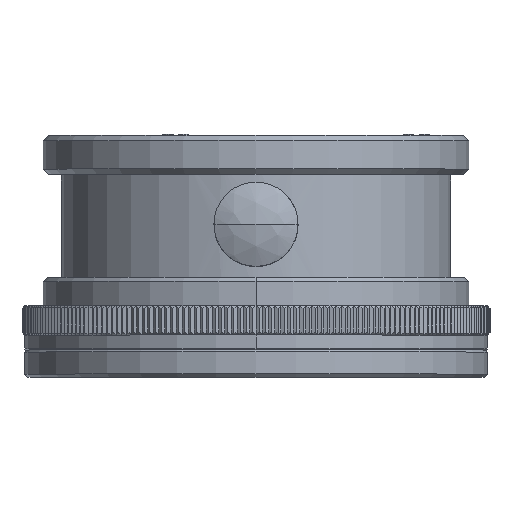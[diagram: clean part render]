
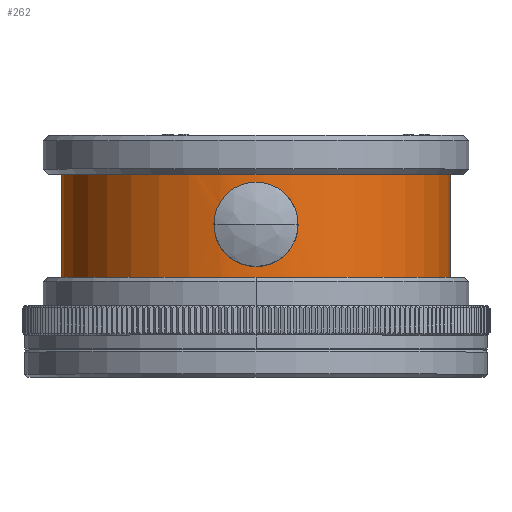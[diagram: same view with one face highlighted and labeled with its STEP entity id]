
A CAD part, top view. The second image highlights one B-rep face of the part: STEP entity #262.
In plain terms, the highlighted cylindrical face has radius 18.5 mm (diameter 37 mm), a partial arc.
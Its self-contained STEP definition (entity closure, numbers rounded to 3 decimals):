
#262=ADVANCED_FACE('',(#1477,#1478),#1479,.T.);
#1477=FACE_BOUND('',#3759,.T.);
#1478=FACE_OUTER_BOUND('',#3760,.T.);
#1479=CYLINDRICAL_SURFACE('',#3761,18.5);
#3759=EDGE_LOOP('',(#7621,#7622));
#3760=EDGE_LOOP('',(#7623,#7624,#7625,#7626,#7627));
#3761=AXIS2_PLACEMENT_3D('',#7628,#7629,#7630);
#7621=ORIENTED_EDGE('',*,*,#16089,.F.);
#7622=ORIENTED_EDGE('',*,*,#16090,.F.);
#7623=ORIENTED_EDGE('',*,*,#16091,.F.);
#7624=ORIENTED_EDGE('',*,*,#16092,.T.);
#7625=ORIENTED_EDGE('',*,*,#16093,.T.);
#7626=ORIENTED_EDGE('',*,*,#16094,.F.);
#7627=ORIENTED_EDGE('',*,*,#16095,.F.);
#7628=CARTESIAN_POINT('',(0.0,-15.5,0.));
#7629=DIRECTION('',(-0.0,1.0,0.0));
#7630=DIRECTION('',(1.0,0.0,0.0));
#16089=EDGE_CURVE('',#20312,#20313,#20314,.T.);
#16090=EDGE_CURVE('',#20313,#20312,#20315,.T.);
#16091=EDGE_CURVE('',#20316,#20307,#20317,.T.);
#16092=EDGE_CURVE('',#20316,#20318,#20319,.T.);
#16093=EDGE_CURVE('',#20318,#20320,#20321,.T.);
#16094=EDGE_CURVE('',#20304,#20320,#20322,.T.);
#16095=EDGE_CURVE('',#20307,#20304,#20323,.T.);
#20304=VERTEX_POINT('',#29557);
#20307=VERTEX_POINT('',#29561);
#20312=VERTEX_POINT('',#29567);
#20313=VERTEX_POINT('',#29568);
#20314=B_SPLINE_CURVE_WITH_KNOTS('',3,(#29569,#29570,#29571,#29572,#29573,#29574,#29575,#29576,#29577,#29578,#29579,#29580,#29581,#29582,#29583,#29584,#29585,#29586,#29587,#29588,#29589,#29590,#29591,#29592,#29593,#29594,#29595,#29596,#29597,#29598,#29599,#29600,#29601,#29602),.UNSPECIFIED.,.F.,.F.,(4,2,2,2,2,2,2,2,2,2,2,2,2,2,2,2,4),(0.0,0.756,1.512,2.268,3.024,3.78,4.536,5.292,6.048,6.804,7.559,8.315,9.071,9.827,10.583,11.339,12.095),.UNSPECIFIED.);
#20315=B_SPLINE_CURVE_WITH_KNOTS('',3,(#29603,#29604,#29605,#29606,#29607,#29608,#29609,#29610,#29611,#29612,#29613,#29614,#29615,#29616,#29617,#29618,#29619,#29620,#29621,#29622,#29623,#29624,#29625,#29626,#29627,#29628,#29629,#29630,#29631,#29632,#29633,#29634,#29635,#29636),.UNSPECIFIED.,.F.,.F.,(4,2,2,2,2,2,2,2,2,2,2,2,2,2,2,2,4),(12.095,12.851,13.607,14.363,15.119,15.875,16.631,17.387,18.143,18.899,19.655,20.411,21.166,21.922,22.678,23.434,24.19),.UNSPECIFIED.);
#20316=VERTEX_POINT('',#29637);
#20317=LINE('',#29638,#29639);
#20318=VERTEX_POINT('',#29640);
#20319=CIRCLE('',#29641,18.5);
#20320=VERTEX_POINT('',#29642);
#20321=CIRCLE('',#29643,18.5);
#20322=LINE('',#29644,#29645);
#20323=CIRCLE('',#29646,18.5);
#29557=CARTESIAN_POINT('',(-18.5,-15.415,0.));
#29561=CARTESIAN_POINT('',(18.5,-15.415,0.));
#29567=CARTESIAN_POINT('',(4.0,-8.5,18.062));
#29568=CARTESIAN_POINT('',(-4.0,-8.5,18.062));
#29569=CARTESIAN_POINT('',(4.0,-8.5,18.062));
#29570=CARTESIAN_POINT('',(4.0,-8.248,18.062));
#29571=CARTESIAN_POINT('',(3.976,-7.988,18.068));
#29572=CARTESIAN_POINT('',(3.874,-7.47,18.09));
#29573=CARTESIAN_POINT('',(3.797,-7.213,18.107));
#29574=CARTESIAN_POINT('',(3.592,-6.721,18.148));
#29575=CARTESIAN_POINT('',(3.465,-6.485,18.173));
#29576=CARTESIAN_POINT('',(3.172,-6.049,18.227));
#29577=CARTESIAN_POINT('',(3.006,-5.849,18.255));
#29578=CARTESIAN_POINT('',(2.651,-5.494,18.31));
#29579=CARTESIAN_POINT('',(2.451,-5.328,18.338));
#29580=CARTESIAN_POINT('',(2.015,-5.035,18.391));
#29581=CARTESIAN_POINT('',(1.779,-4.908,18.416));
#29582=CARTESIAN_POINT('',(1.287,-4.703,18.457));
#29583=CARTESIAN_POINT('',(1.03,-4.626,18.473));
#29584=CARTESIAN_POINT('',(0.512,-4.524,18.495));
#29585=CARTESIAN_POINT('',(0.252,-4.5,18.5));
#29586=CARTESIAN_POINT('',(-0.252,-4.5,18.5));
#29587=CARTESIAN_POINT('',(-0.512,-4.524,18.495));
#29588=CARTESIAN_POINT('',(-1.03,-4.626,18.473));
#29589=CARTESIAN_POINT('',(-1.287,-4.703,18.457));
#29590=CARTESIAN_POINT('',(-1.779,-4.908,18.416));
#29591=CARTESIAN_POINT('',(-2.015,-5.035,18.391));
#29592=CARTESIAN_POINT('',(-2.451,-5.328,18.338));
#29593=CARTESIAN_POINT('',(-2.651,-5.494,18.31));
#29594=CARTESIAN_POINT('',(-3.006,-5.849,18.255));
#29595=CARTESIAN_POINT('',(-3.172,-6.049,18.227));
#29596=CARTESIAN_POINT('',(-3.465,-6.485,18.173));
#29597=CARTESIAN_POINT('',(-3.592,-6.721,18.148));
#29598=CARTESIAN_POINT('',(-3.797,-7.213,18.107));
#29599=CARTESIAN_POINT('',(-3.874,-7.47,18.09));
#29600=CARTESIAN_POINT('',(-3.976,-7.988,18.068));
#29601=CARTESIAN_POINT('',(-4.0,-8.248,18.062));
#29602=CARTESIAN_POINT('',(-4.0,-8.5,18.062));
#29603=CARTESIAN_POINT('',(-4.0,-8.5,18.062));
#29604=CARTESIAN_POINT('',(-4.0,-8.752,18.062));
#29605=CARTESIAN_POINT('',(-3.976,-9.012,18.068));
#29606=CARTESIAN_POINT('',(-3.874,-9.53,18.09));
#29607=CARTESIAN_POINT('',(-3.797,-9.787,18.107));
#29608=CARTESIAN_POINT('',(-3.592,-10.279,18.148));
#29609=CARTESIAN_POINT('',(-3.465,-10.515,18.173));
#29610=CARTESIAN_POINT('',(-3.172,-10.951,18.227));
#29611=CARTESIAN_POINT('',(-3.006,-11.151,18.255));
#29612=CARTESIAN_POINT('',(-2.651,-11.506,18.31));
#29613=CARTESIAN_POINT('',(-2.451,-11.672,18.338));
#29614=CARTESIAN_POINT('',(-2.015,-11.965,18.391));
#29615=CARTESIAN_POINT('',(-1.779,-12.092,18.416));
#29616=CARTESIAN_POINT('',(-1.287,-12.297,18.457));
#29617=CARTESIAN_POINT('',(-1.03,-12.374,18.473));
#29618=CARTESIAN_POINT('',(-0.512,-12.476,18.495));
#29619=CARTESIAN_POINT('',(-0.252,-12.5,18.5));
#29620=CARTESIAN_POINT('',(0.252,-12.5,18.5));
#29621=CARTESIAN_POINT('',(0.512,-12.476,18.495));
#29622=CARTESIAN_POINT('',(1.03,-12.374,18.473));
#29623=CARTESIAN_POINT('',(1.287,-12.297,18.457));
#29624=CARTESIAN_POINT('',(1.779,-12.092,18.416));
#29625=CARTESIAN_POINT('',(2.015,-11.965,18.391));
#29626=CARTESIAN_POINT('',(2.451,-11.672,18.338));
#29627=CARTESIAN_POINT('',(2.651,-11.506,18.31));
#29628=CARTESIAN_POINT('',(3.006,-11.151,18.255));
#29629=CARTESIAN_POINT('',(3.172,-10.951,18.227));
#29630=CARTESIAN_POINT('',(3.465,-10.515,18.173));
#29631=CARTESIAN_POINT('',(3.592,-10.279,18.148));
#29632=CARTESIAN_POINT('',(3.797,-9.787,18.107));
#29633=CARTESIAN_POINT('',(3.874,-9.53,18.09));
#29634=CARTESIAN_POINT('',(3.976,-9.012,18.068));
#29635=CARTESIAN_POINT('',(4.0,-8.752,18.062));
#29636=CARTESIAN_POINT('',(4.0,-8.5,18.062));
#29637=CARTESIAN_POINT('',(18.5,-2.7,0.));
#29638=CARTESIAN_POINT('',(18.5,-9.058,0.));
#29639=VECTOR('',#40804,1.0);
#29640=CARTESIAN_POINT('',(0.0,-2.7,18.5));
#29641=AXIS2_PLACEMENT_3D('',#40805,#40806,#40807);
#29642=CARTESIAN_POINT('',(-18.5,-2.7,0.));
#29643=AXIS2_PLACEMENT_3D('',#40808,#40809,#40810);
#29644=CARTESIAN_POINT('',(-18.5,-9.058,0.));
#29645=VECTOR('',#40811,1.0);
#29646=AXIS2_PLACEMENT_3D('',#40812,#40813,#40814);
#40804=DIRECTION('',(-0.0,-1.0,-0.0));
#40805=CARTESIAN_POINT('',(0.0,-2.7,0.));
#40806=DIRECTION('',(0.0,-1.0,0.0));
#40807=DIRECTION('',(1.0,0.0,0.0));
#40808=CARTESIAN_POINT('',(0.0,-2.7,0.));
#40809=DIRECTION('',(0.0,-1.0,0.0));
#40810=DIRECTION('',(1.0,0.0,0.0));
#40811=DIRECTION('',(0.0,1.0,0.0));
#40812=CARTESIAN_POINT('',(0.0,-15.415,0.));
#40813=DIRECTION('',(0.0,-1.0,0.0));
#40814=DIRECTION('',(1.0,0.0,0.0));
